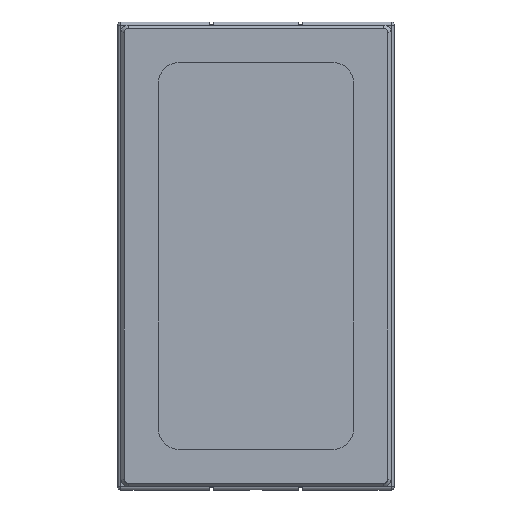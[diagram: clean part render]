
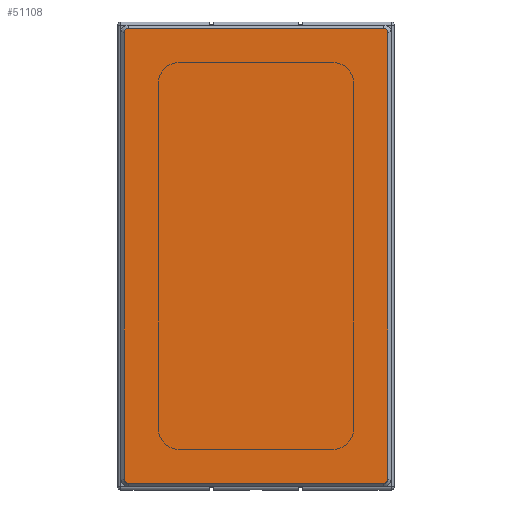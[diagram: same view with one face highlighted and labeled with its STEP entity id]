
A CAD part, top view. The second image highlights one B-rep face of the part: STEP entity #51108.
In plain terms, the highlighted planar face has unit normal (0, 0, 1).
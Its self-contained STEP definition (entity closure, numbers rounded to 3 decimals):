
#2950=FACE_OUTER_BOUND('',#5930,.T.);
#5930=EDGE_LOOP('',(#33747,#33748,#33749,#33750,#33751,#33752,#33753,#33754));
#9295=CIRCLE('',#54147,4.);
#9296=CIRCLE('',#54148,4.);
#9297=CIRCLE('',#54149,4.);
#9298=CIRCLE('',#54150,4.);
#10872=LINE('',#72579,#15839);
#10873=LINE('',#72583,#15840);
#10874=LINE('',#72587,#15841);
#10875=LINE('',#72590,#15842);
#15839=VECTOR('',#58677,1000.);
#15840=VECTOR('',#58680,1000.);
#15841=VECTOR('',#58683,1000.);
#15842=VECTOR('',#58686,1000.);
#20816=VERTEX_POINT('',#72575);
#20817=VERTEX_POINT('',#72576);
#20818=VERTEX_POINT('',#72578);
#20819=VERTEX_POINT('',#72580);
#20820=VERTEX_POINT('',#72582);
#20821=VERTEX_POINT('',#72584);
#20822=VERTEX_POINT('',#72586);
#20823=VERTEX_POINT('',#72588);
#25900=EDGE_CURVE('',#20816,#20817,#9295,.T.);
#25901=EDGE_CURVE('',#20817,#20818,#10872,.T.);
#25902=EDGE_CURVE('',#20818,#20819,#9296,.T.);
#25903=EDGE_CURVE('',#20819,#20820,#10873,.T.);
#25904=EDGE_CURVE('',#20820,#20821,#9297,.T.);
#25905=EDGE_CURVE('',#20821,#20822,#10874,.T.);
#25906=EDGE_CURVE('',#20822,#20823,#9298,.T.);
#25907=EDGE_CURVE('',#20823,#20816,#10875,.T.);
#33747=ORIENTED_EDGE('',*,*,#25900,.T.);
#33748=ORIENTED_EDGE('',*,*,#25901,.T.);
#33749=ORIENTED_EDGE('',*,*,#25902,.T.);
#33750=ORIENTED_EDGE('',*,*,#25903,.T.);
#33751=ORIENTED_EDGE('',*,*,#25904,.T.);
#33752=ORIENTED_EDGE('',*,*,#25905,.T.);
#33753=ORIENTED_EDGE('',*,*,#25906,.T.);
#33754=ORIENTED_EDGE('',*,*,#25907,.T.);
#49358=PLANE('',#54146);
#51108=ADVANCED_FACE('',(#2950),#49358,.T.);
#54146=AXIS2_PLACEMENT_3D('',#72574,#58673,#58674);
#54147=AXIS2_PLACEMENT_3D('',#72577,#58675,#58676);
#54148=AXIS2_PLACEMENT_3D('',#72581,#58678,#58679);
#54149=AXIS2_PLACEMENT_3D('',#72585,#58681,#58682);
#54150=AXIS2_PLACEMENT_3D('',#72589,#58684,#58685);
#58673=DIRECTION('center_axis',(0.,0.,1.));
#58674=DIRECTION('ref_axis',(1.,0.,0.));
#58675=DIRECTION('center_axis',(0.,0.,1.));
#58676=DIRECTION('ref_axis',(1.,0.,0.));
#58677=DIRECTION('',(1.,0.,0.));
#58678=DIRECTION('center_axis',(0.,0.,1.));
#58679=DIRECTION('ref_axis',(1.,0.,0.));
#58680=DIRECTION('',(0.,1.,0.));
#58681=DIRECTION('center_axis',(0.,0.,1.));
#58682=DIRECTION('ref_axis',(1.,0.,0.));
#58683=DIRECTION('',(-1.,0.,0.));
#58684=DIRECTION('center_axis',(0.,0.,1.));
#58685=DIRECTION('ref_axis',(1.,0.,0.));
#58686=DIRECTION('',(0.,-1.,0.));
#72574=CARTESIAN_POINT('Origin',(-120.,-200.,6.));
#72575=CARTESIAN_POINT('',(-124.,-200.,6.));
#72576=CARTESIAN_POINT('',(-120.,-204.,6.));
#72577=CARTESIAN_POINT('Origin',(-120.,-200.,6.));
#72578=CARTESIAN_POINT('',(120.,-204.,6.));
#72579=CARTESIAN_POINT('',(120.,-204.,6.));
#72580=CARTESIAN_POINT('',(124.,-200.,6.));
#72581=CARTESIAN_POINT('Origin',(120.,-200.,6.));
#72582=CARTESIAN_POINT('',(124.,220.,6.));
#72583=CARTESIAN_POINT('',(124.,220.,6.));
#72584=CARTESIAN_POINT('',(120.,224.,6.));
#72585=CARTESIAN_POINT('Origin',(120.,220.,6.));
#72586=CARTESIAN_POINT('',(-120.,224.,6.));
#72587=CARTESIAN_POINT('',(-120.,224.,6.));
#72588=CARTESIAN_POINT('',(-124.,220.,6.));
#72589=CARTESIAN_POINT('Origin',(-120.,220.,6.));
#72590=CARTESIAN_POINT('',(-124.,-200.,6.));
